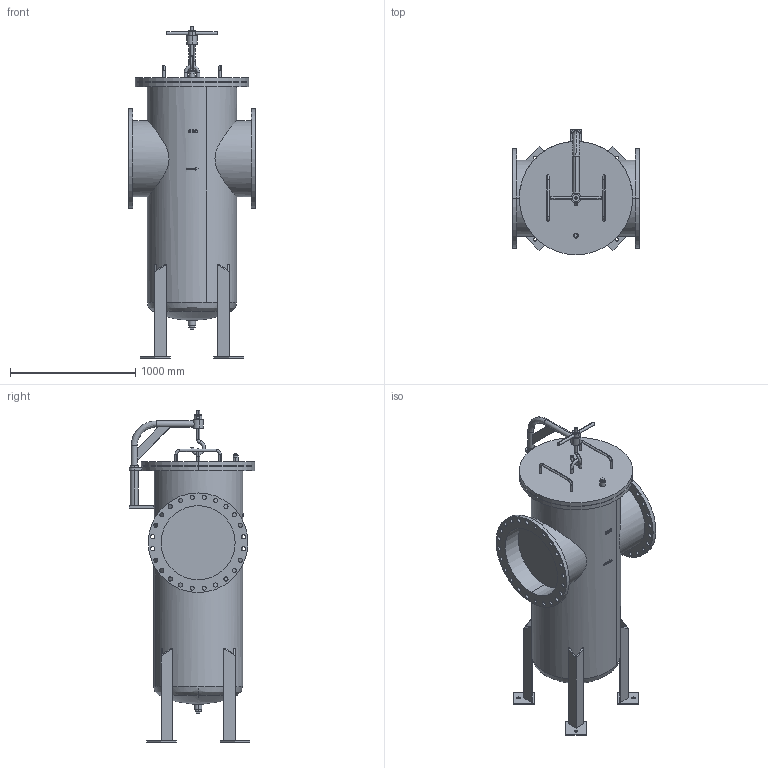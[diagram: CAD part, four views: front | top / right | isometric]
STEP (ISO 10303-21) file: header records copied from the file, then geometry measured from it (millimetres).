
FILE_DESCRIPTION( (''), '2;1');
FILE_NAME ('PC1056.13592.SU-6(600A)_20579.stp','2024-07-31T11:51:32',(''),(''),'spGate 19.8.4 (****-****-****-****)','','');
FILE_SCHEMA (('AUTOMOTIVE_DESIGN'));
Length unit declared in the file: millimetre
Products named in the file (28): Assembly; SU6(600A)本体P; PC1056-prt1; PC1056-prt2; PC1056-prt3; PC1056-prt4; 600Aダビッド_M5; 600Aハンドル; PC1056-prt7; PC1056-prt8; PC1056-prt9; PC1056-prt10; 600Aふたフック_M5; PC1056-prt12; PC1056-prt13; PC1056-prt14; PC1056-prt15; PC1056-prt16; PC1056-prt17; PC1056-prt18; 600A取っ手_M6; PC1056-prt20; PC1056-prt21; PC1056-prt22; PC1056-prt23; 600Aフック_M5; plug-25A-JISB2301; plug-40A-JISB2301
Assembly tree (33 placements, depth 2):
  Assembly
    SU6(600A)本体P
    PC1056-prt1
    PC1056-prt2
    PC1056-prt3
    PC1056-prt4
    600Aダビッド_M5
    600Aハンドル
    PC1056-prt7
    PC1056-prt8
    PC1056-prt9
    PC1056-prt10
    600Aふたフック_M5
    PC1056-prt12  x2
    PC1056-prt13  x2
    PC1056-prt14  x2
    PC1056-prt15
    PC1056-prt16
    PC1056-prt17  x2
    PC1056-prt18  x2
    600A取っ手_M6  x2
    PC1056-prt20
    PC1056-prt21
    PC1056-prt22
    PC1056-prt23
    600Aフック_M5
    plug-25A-JISB2301
    plug-40A-JISB2301
Bounding box: 1010 x 1002.5 x 2649.98 mm (x, y, z)
Volume: 816265721.4 mm3; surface area: 9772341.9 mm2
Topology: 9 solids, 9 shells, 427 faces, 1133 edges, 775 vertices
Faces by surface type: cylinder 231, plane 139, bspline 55, sphere 2
Entity records: 26587 total; most frequent: CARTESIAN_POINT 7302, ORIENTED_EDGE 2158, DIRECTION 2086, COLOUR_RGB 1521, PRESENTATION_STYLE_ASSIGNMENT 1521, STYLED_ITEM 1521, DRAUGHTING_PRE_DEFINED_CURVE_FONT 1098, CURVE_STYLE 1098
